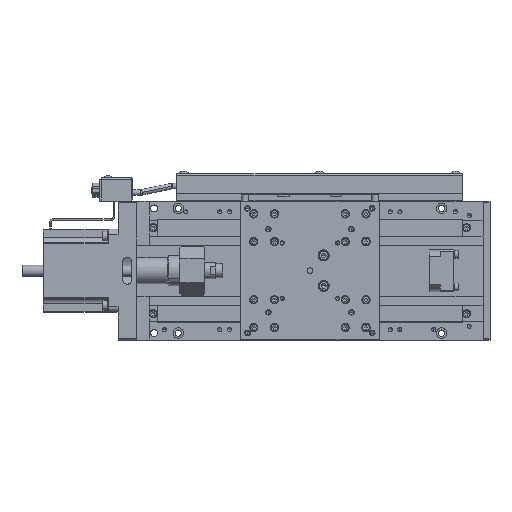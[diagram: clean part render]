
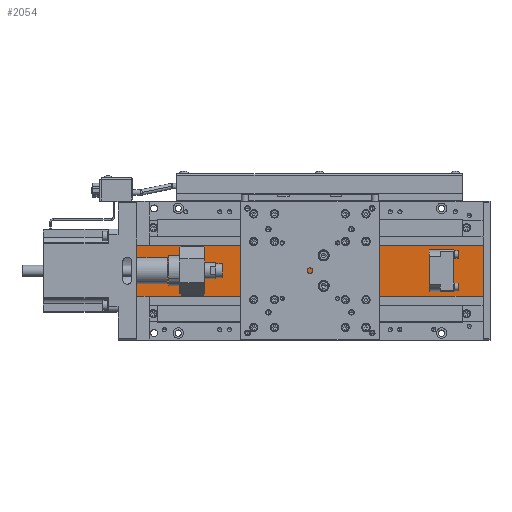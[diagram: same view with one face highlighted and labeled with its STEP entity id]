
A CAD part, top view. The second image highlights one B-rep face of the part: STEP entity #2054.
In plain terms, the highlighted planar face has unit normal (0, 0, 1).
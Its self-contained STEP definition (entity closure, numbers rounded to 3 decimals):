
#2054=ADVANCED_FACE('',(#22819,#22820,#22821),#22818,.T.);
#22818=PLANE('',#46507);
#22819=FACE_OUTER_BOUND('',#46508,.T.);
#22820=FACE_BOUND('',#46509,.T.);
#22821=FACE_BOUND('',#46510,.T.);
#46504=CARTESIAN_POINT('',(-135.,22.2,10.));
#46505=DIRECTION('',(0.,0.,1.));
#46506=DIRECTION('',(0.,-1.,0.));
#46507=AXIS2_PLACEMENT_3D('',#46504,#46505,#46506);
#46508=EDGE_LOOP('',(#63254,#63255,#63256,#63257,#63258,#63259));
#46509=EDGE_LOOP('',(#63260,#63261,#63262,#63263,#63264,#63265,#63266,#63267));
#46510=EDGE_LOOP('',(#63268,#63269,#63270,#63271));
#63254=ORIENTED_EDGE('',*,*,#71720,.F.);
#63255=ORIENTED_EDGE('',*,*,#73387,.F.);
#63256=ORIENTED_EDGE('',*,*,#73389,.T.);
#63257=ORIENTED_EDGE('',*,*,#70293,.T.);
#63258=ORIENTED_EDGE('',*,*,#73390,.T.);
#63259=ORIENTED_EDGE('',*,*,#73391,.T.);
#63260=ORIENTED_EDGE('',*,*,#73267,.F.);
#63261=ORIENTED_EDGE('',*,*,#73288,.T.);
#63262=ORIENTED_EDGE('',*,*,#73276,.F.);
#63263=ORIENTED_EDGE('',*,*,#73290,.T.);
#63264=ORIENTED_EDGE('',*,*,#73257,.T.);
#63265=ORIENTED_EDGE('',*,*,#73291,.T.);
#63266=ORIENTED_EDGE('',*,*,#73285,.T.);
#63267=ORIENTED_EDGE('',*,*,#73289,.T.);
#63268=ORIENTED_EDGE('',*,*,#73120,.F.);
#63269=ORIENTED_EDGE('',*,*,#71652,.F.);
#63270=ORIENTED_EDGE('',*,*,#71639,.T.);
#63271=ORIENTED_EDGE('',*,*,#71650,.T.);
#70293=EDGE_CURVE('',#87927,#87928,#87929,.T.);
#71639=EDGE_CURVE('',#96968,#96996,#97003,.T.);
#71650=EDGE_CURVE('',#96996,#97069,#97077,.T.);
#71652=EDGE_CURVE('',#96968,#97089,#97090,.T.);
#71720=EDGE_CURVE('',#97538,#97545,#97546,.T.);
#73120=EDGE_CURVE('',#97089,#97069,#106929,.T.);
#73257=EDGE_CURVE('',#107799,#107800,#107801,.T.);
#73267=EDGE_CURVE('',#107863,#107870,#107871,.T.);
#73276=EDGE_CURVE('',#107926,#107933,#107934,.T.);
#73285=EDGE_CURVE('',#107990,#107991,#107992,.T.);
#73288=EDGE_CURVE('',#107863,#107933,#108010,.T.);
#73289=EDGE_CURVE('',#107991,#107870,#108016,.T.);
#73290=EDGE_CURVE('',#107926,#107799,#108022,.T.);
#73291=EDGE_CURVE('',#107800,#107990,#108028,.T.);
#73387=EDGE_CURVE('',#108671,#97538,#108678,.T.);
#73389=EDGE_CURVE('',#108671,#87927,#108690,.T.);
#73390=EDGE_CURVE('',#87928,#108696,#108697,.T.);
#73391=EDGE_CURVE('',#108696,#97545,#108703,.T.);
#87927=VERTEX_POINT('',#128607);
#87928=VERTEX_POINT('',#128608);
#87929=LINE('',#128609,#128610);
#96968=VERTEX_POINT('',#134076);
#96996=VERTEX_POINT('',#134092);
#97003=LINE('',#134096,#134097);
#97069=VERTEX_POINT('',#134133);
#97077=LINE('',#134138,#134139);
#97089=VERTEX_POINT('',#134144);
#97090=LINE('',#134145,#134146);
#97538=VERTEX_POINT('',#134409);
#97545=VERTEX_POINT('',#134413);
#97546=LINE('',#134414,#134415);
#106929=LINE('',#140255,#140256);
#107799=VERTEX_POINT('',#140815);
#107800=VERTEX_POINT('',#140816);
#107801=LINE('',#140817,#140818);
#107863=VERTEX_POINT('',#140854);
#107870=VERTEX_POINT('',#140858);
#107871=LINE('',#140859,#140860);
#107926=VERTEX_POINT('',#140893);
#107933=VERTEX_POINT('',#140897);
#107934=LINE('',#140898,#140899);
#107990=VERTEX_POINT('',#140927);
#107991=VERTEX_POINT('',#140928);
#107992=LINE('',#140929,#140930);
#108010=LINE('',#140938,#140939);
#108016=LINE('',#140941,#140942);
#108022=LINE('',#140944,#140945);
#108028=LINE('',#140947,#140948);
#108671=VERTEX_POINT('',#141355);
#108678=LINE('',#141359,#141360);
#108690=LINE('',#141365,#141366);
#108696=VERTEX_POINT('',#141368);
#108697=LINE('',#141369,#141370);
#108703=LINE('',#141372,#141373);
#128607=CARTESIAN_POINT('',(-125.,12.45,10.));
#128608=CARTESIAN_POINT('',(-125.,-12.45,10.));
#128609=CARTESIAN_POINT('',(-125.,12.45,10.));
#128610=VECTOR('',#128611,24.9);
#128611=DIRECTION('',(0.,-1.,0.));
#134076=CARTESIAN_POINT('',(104.,15.,10.));
#134092=CARTESIAN_POINT('',(104.,-15.,10.));
#134096=CARTESIAN_POINT('',(104.,15.,10.));
#134097=VECTOR('',#134098,30.);
#134098=DIRECTION('',(0.,-1.,0.));
#134133=CARTESIAN_POINT('',(94.,-15.,10.));
#134138=CARTESIAN_POINT('',(104.,-15.,10.));
#134139=VECTOR('',#134140,10.);
#134140=DIRECTION('',(-1.,0.,0.));
#134144=CARTESIAN_POINT('',(94.,15.,10.));
#134145=CARTESIAN_POINT('',(104.,15.,10.));
#134146=VECTOR('',#134147,10.);
#134147=DIRECTION('',(-1.,0.,0.));
#134409=CARTESIAN_POINT('',(125.,18.5,10.));
#134413=CARTESIAN_POINT('',(125.,-18.5,10.));
#134414=CARTESIAN_POINT('',(125.,18.5,10.));
#134415=VECTOR('',#134416,37.);
#134416=DIRECTION('',(0.,-1.,0.));
#140255=CARTESIAN_POINT('',(94.,15.,10.));
#140256=VECTOR('',#140257,30.);
#140257=DIRECTION('',(0.,-1.,0.));
#140815=CARTESIAN_POINT('',(-76.,16.5,10.));
#140816=CARTESIAN_POINT('',(-76.,-16.5,10.));
#140817=CARTESIAN_POINT('',(-76.,16.5,10.));
#140818=VECTOR('',#140819,33.);
#140819=DIRECTION('',(0.,-1.,0.));
#140854=CARTESIAN_POINT('',(-94.,16.5,10.));
#140858=CARTESIAN_POINT('',(-94.,-16.5,10.));
#140859=CARTESIAN_POINT('',(-94.,16.5,10.));
#140860=VECTOR('',#140861,33.);
#140861=DIRECTION('',(0.,-1.,0.));
#140893=CARTESIAN_POINT('',(-77.,17.5,10.));
#140897=CARTESIAN_POINT('',(-93.,17.5,10.));
#140898=CARTESIAN_POINT('',(-77.,17.5,10.));
#140899=VECTOR('',#140900,16.);
#140900=DIRECTION('',(-1.,0.,0.));
#140927=CARTESIAN_POINT('',(-77.,-17.5,10.));
#140928=CARTESIAN_POINT('',(-93.,-17.5,10.));
#140929=CARTESIAN_POINT('',(-77.,-17.5,10.));
#140930=VECTOR('',#140931,16.);
#140931=DIRECTION('',(-1.,0.,0.));
#140938=CARTESIAN_POINT('',(-94.,16.5,10.));
#140939=VECTOR('',#140940,1.414);
#140940=DIRECTION('',(0.707,0.707,0.));
#140941=CARTESIAN_POINT('',(-93.,-17.5,10.));
#140942=VECTOR('',#140943,1.414);
#140943=DIRECTION('',(-0.707,0.707,0.));
#140944=CARTESIAN_POINT('',(-77.,17.5,10.));
#140945=VECTOR('',#140946,1.414);
#140946=DIRECTION('',(0.707,-0.707,0.));
#140947=CARTESIAN_POINT('',(-76.,-16.5,10.));
#140948=VECTOR('',#140949,1.414);
#140949=DIRECTION('',(-0.707,-0.707,0.));
#141355=CARTESIAN_POINT('',(-125.,18.5,10.));
#141359=CARTESIAN_POINT('',(-125.,18.5,10.));
#141360=VECTOR('',#141361,250.);
#141361=DIRECTION('',(1.,0.,0.));
#141365=CARTESIAN_POINT('',(-125.,18.5,10.));
#141366=VECTOR('',#141367,6.05);
#141367=DIRECTION('',(0.,-1.,0.));
#141368=CARTESIAN_POINT('',(-125.,-18.5,10.));
#141369=CARTESIAN_POINT('',(-125.,-12.45,10.));
#141370=VECTOR('',#141371,6.05);
#141371=DIRECTION('',(0.,-1.,0.));
#141372=CARTESIAN_POINT('',(-125.,-18.5,10.));
#141373=VECTOR('',#141374,250.);
#141374=DIRECTION('',(1.,0.,0.));
